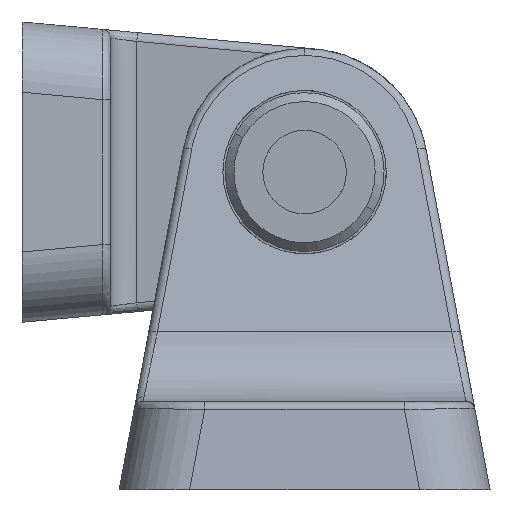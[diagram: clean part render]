
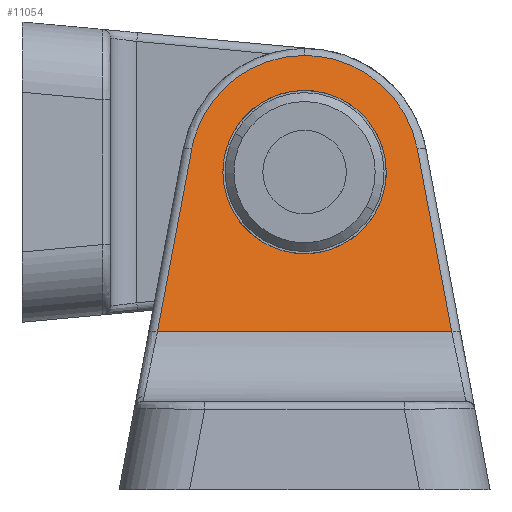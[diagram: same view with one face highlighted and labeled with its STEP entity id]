
A CAD part, front view. The second image highlights one B-rep face of the part: STEP entity #11054.
In plain terms, the highlighted planar face has unit normal (0, -0.978, 0.208) as drawn and (0, 0.208, 0.978) by its records, which use the part's own axes.
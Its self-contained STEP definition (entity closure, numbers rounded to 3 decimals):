
#345 = FACE_OUTER_BOUND ( 'NONE', #10821, .T. ) ;
#346 = FACE_BOUND ( 'NONE', #7846, .T. ) ;
#347 = PLANE ( 'NONE',  #348 ) ;
#348 = AXIS2_PLACEMENT_3D ( 'NONE', #349, #354, #355 ) ;
#349 = CARTESIAN_POINT ( 'NONE',  ( 21.001, 14., 39.5 ) ) ;
#354 = DIRECTION ( 'NONE',  ( 0., -0.208, -0.978 ) ) ;
#355 = DIRECTION ( 'NONE',  ( 0., 0.978, -0.208 ) ) ;
#826 = CARTESIAN_POINT ( 'NONE',  ( 16.658, -18.079, 46.317 ) ) ;
#1350 = LINE ( 'NONE', #1351, #1352 ) ;
#1351 = CARTESIAN_POINT ( 'NONE',  ( 19.123, -18.079, 46.317 ) ) ;
#1352 = VECTOR ( 'NONE', #1353, 1000. ) ;
#1353 = DIRECTION ( 'NONE',  ( 1., 0., 0. ) ) ;
#1819 = CARTESIAN_POINT ( 'NONE',  ( 9.25, 0., 42.475 ) ) ;
#3854 = CARTESIAN_POINT ( 'NONE',  ( -16.658, -18.079, 46.317 ) ) ;
#3917 = LINE ( 'NONE', #3918, #3919 ) ;
#3918 = CARTESIAN_POINT ( 'NONE',  ( -9.607, 19.496, 38.332 ) ) ;
#3919 = VECTOR ( 'NONE', #3920, 1000. ) ;
#3920 = DIRECTION ( 'NONE',  ( -0.181, -0.962, 0.204 ) ) ;
#5141 = VERTEX_POINT ( 'NONE', #6037 ) ;
#5354 = VERTEX_POINT ( 'NONE', #6105 ) ;
#5566 = EDGE_CURVE ( 'NONE', #5354, #5141, #6864, .T. ) ;
#6037 = CARTESIAN_POINT ( 'NONE',  ( -12.777, 2.606, 41.921 ) ) ;
#6105 = CARTESIAN_POINT ( 'NONE',  ( 0., 13.208, 39.668 ) ) ;
#6864 =( BOUNDED_CURVE ( )  B_SPLINE_CURVE ( 3, ( #6865, #6866, #6867, #6868 ),
 .UNSPECIFIED., .F., .T. ) 
 B_SPLINE_CURVE_WITH_KNOTS ( ( 4, 4 ),
 ( 0., 1.385 ),
 .UNSPECIFIED. ) 
 CURVE ( )  GEOMETRIC_REPRESENTATION_ITEM ( )  RATIONAL_B_SPLINE_CURVE ( ( 1., 0.846, 0.846, 1. ) ) 
 REPRESENTATION_ITEM ( '' )  );
#6865 = CARTESIAN_POINT ( 'NONE',  ( 0., 13.208, 39.668 ) ) ;
#6866 = CARTESIAN_POINT ( 'NONE',  ( -6.539, 13.208, 39.668 ) ) ;
#6867 = CARTESIAN_POINT ( 'NONE',  ( -11.571, 9.032, 40.556 ) ) ;
#6868 = CARTESIAN_POINT ( 'NONE',  ( -12.777, 2.606, 41.921 ) ) ;
#7564 = VERTEX_POINT ( 'NONE', #1819 ) ;
#7709 = ORIENTED_EDGE ( 'NONE', *, *, #10068, .F. ) ;
#7758 = EDGE_CURVE ( 'NONE', #9855, #7564, #9499, .T. ) ;
#7795 = ORIENTED_EDGE ( 'NONE', *, *, #7758, .F. ) ;
#7846 = EDGE_LOOP ( 'NONE', ( #7795, #7709 ) ) ;
#7866 = EDGE_CURVE ( 'NONE', #7941, #9769, #12871, .T. ) ;
#7900 = ORIENTED_EDGE ( 'NONE', *, *, #7866, .T. ) ;
#7941 = VERTEX_POINT ( 'NONE', #826 ) ;
#7967 = EDGE_CURVE ( 'NONE', #8148, #7941, #1350, .T. ) ;
#8001 = ORIENTED_EDGE ( 'NONE', *, *, #7967, .T. ) ;
#8148 = VERTEX_POINT ( 'NONE', #3854 ) ;
#8272 = EDGE_CURVE ( 'NONE', #5141, #8148, #3917, .T. ) ;
#8626 = ORIENTED_EDGE ( 'NONE', *, *, #8272, .T. ) ;
#9273 = ORIENTED_EDGE ( 'NONE', *, *, #5566, .T. ) ;
#9499 =( BOUNDED_CURVE ( )  B_SPLINE_CURVE ( 3, ( #9500, #9505, #9506, #9507 ),
 .UNSPECIFIED., .F., .T. ) 
 B_SPLINE_CURVE_WITH_KNOTS ( ( 4, 4 ),
 ( 4.712, 7.854 ),
 .UNSPECIFIED. ) 
 CURVE ( )  GEOMETRIC_REPRESENTATION_ITEM ( )  RATIONAL_B_SPLINE_CURVE ( ( 1., 0.333, 0.333, 1. ) ) 
 REPRESENTATION_ITEM ( '' )  );
#9500 = CARTESIAN_POINT ( 'NONE',  ( -9.25, 0., 42.475 ) ) ;
#9505 = CARTESIAN_POINT ( 'NONE',  ( -9.25, -18.5, 46.406 ) ) ;
#9506 = CARTESIAN_POINT ( 'NONE',  ( 9.25, -18.5, 46.406 ) ) ;
#9507 = CARTESIAN_POINT ( 'NONE',  ( 9.25, 0., 42.475 ) ) ;
#9769 = VERTEX_POINT ( 'NONE', #10342 ) ;
#9855 = VERTEX_POINT ( 'NONE', #10384 ) ;
#9977 = EDGE_CURVE ( 'NONE', #9769, #5354, #10844, .T. ) ;
#10068 = EDGE_CURVE ( 'NONE', #7564, #9855, #10900, .T. ) ;
#10331 = ORIENTED_EDGE ( 'NONE', *, *, #9977, .T. ) ;
#10342 = CARTESIAN_POINT ( 'NONE',  ( 12.777, 2.606, 41.921 ) ) ;
#10384 = CARTESIAN_POINT ( 'NONE',  ( -9.25, 0., 42.475 ) ) ;
#10821 = EDGE_LOOP ( 'NONE', ( #10331, #9273, #8626, #8001, #7900 ) ) ;
#10844 =( BOUNDED_CURVE ( )  B_SPLINE_CURVE ( 3, ( #10845, #10846, #10847, #10848 ),
 .UNSPECIFIED., .F., .F. ) 
 B_SPLINE_CURVE_WITH_KNOTS ( ( 4, 4 ),
 ( 4.898, 6.283 ),
 .UNSPECIFIED. ) 
 CURVE ( )  GEOMETRIC_REPRESENTATION_ITEM ( )  RATIONAL_B_SPLINE_CURVE ( ( 1., 0.846, 0.846, 1. ) ) 
 REPRESENTATION_ITEM ( '' )  );
#10845 = CARTESIAN_POINT ( 'NONE',  ( 12.777, 2.606, 41.921 ) ) ;
#10846 = CARTESIAN_POINT ( 'NONE',  ( 11.571, 9.032, 40.556 ) ) ;
#10847 = CARTESIAN_POINT ( 'NONE',  ( 6.539, 13.208, 39.668 ) ) ;
#10848 = CARTESIAN_POINT ( 'NONE',  ( 0., 13.208, 39.668 ) ) ;
#10900 =( BOUNDED_CURVE ( )  B_SPLINE_CURVE ( 3, ( #10901, #10902, #10903, #10904 ),
 .UNSPECIFIED., .F., .F. ) 
 B_SPLINE_CURVE_WITH_KNOTS ( ( 4, 4 ),
 ( 1.571, 4.712 ),
 .UNSPECIFIED. ) 
 CURVE ( )  GEOMETRIC_REPRESENTATION_ITEM ( )  RATIONAL_B_SPLINE_CURVE ( ( 1., 0.333, 0.333, 1. ) ) 
 REPRESENTATION_ITEM ( '' )  );
#10901 = CARTESIAN_POINT ( 'NONE',  ( 9.25, 0., 42.475 ) ) ;
#10902 = CARTESIAN_POINT ( 'NONE',  ( 9.25, 18.5, 38.544 ) ) ;
#10903 = CARTESIAN_POINT ( 'NONE',  ( -9.25, 18.5, 38.544 ) ) ;
#10904 = CARTESIAN_POINT ( 'NONE',  ( -9.25, 0., 42.475 ) ) ;
#11054 = ADVANCED_FACE ( 'NONE', ( #345, #346 ), #347, .F. ) ;
#12871 = LINE ( 'NONE', #12872, #12873 ) ;
#12872 = CARTESIAN_POINT ( 'NONE',  ( 10.976, 12.2, 39.882 ) ) ;
#12873 = VECTOR ( 'NONE', #12874, 1000. ) ;
#12874 = DIRECTION ( 'NONE',  ( -0.181, 0.962, -0.204 ) ) ;
